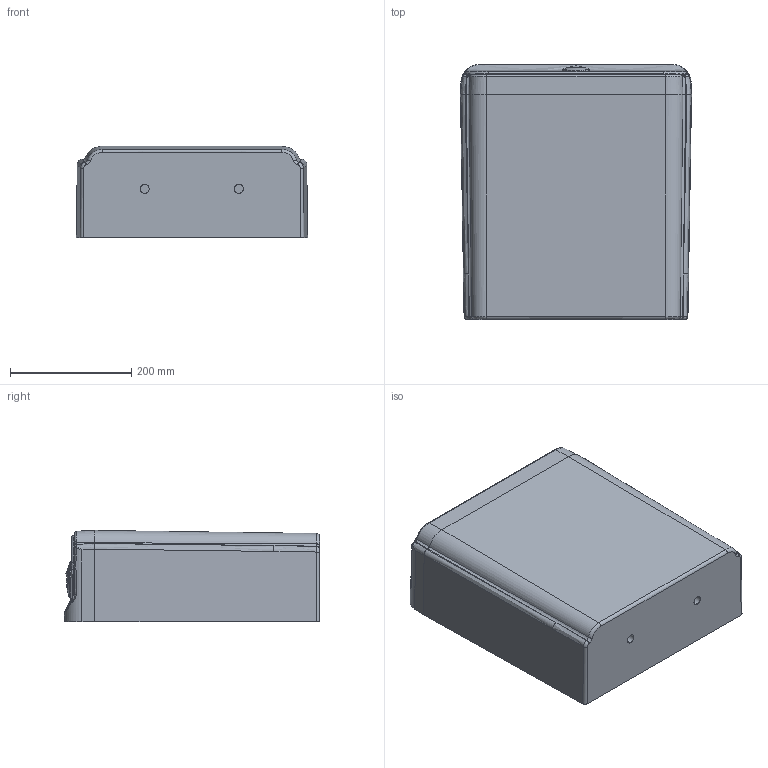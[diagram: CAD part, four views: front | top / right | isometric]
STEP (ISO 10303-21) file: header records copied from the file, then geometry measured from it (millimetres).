
FILE_DESCRIPTION (( 'STEP AP203' ), '1' );
FILE_NAME ('rezervuar.STEP', '2022-04-04T08:09:14', ( '' ), ( '' ), 'SwSTEP 2.0', 'SolidWorks 2021', '' );
FILE_SCHEMA (( 'CONFIG_CONTROL_DESIGN' ));
Length unit declared in the file: millimetre
Products named in the file (1): rezervuar
Bounding box: 380.57 x 420 x 150.05 mm (x, y, z)
Volume: 6682901.1 mm3; surface area: 985845.5 mm2
Topology: 5 solids, 5 shells, 279 faces, 688 edges, 418 vertices
Faces by surface type: bspline 177, cylinder 51, plane 47, sphere 4
Entity records: 31260 total; most frequent: CARTESIAN_POINT 25949, ORIENTED_EDGE 1362, EDGE_CURVE 681, DIRECTION 669, VERTEX_POINT 419, B_SPLINE_CURVE_WITH_KNOTS 350, EDGE_LOOP 296, FACE_OUTER_BOUND 279
